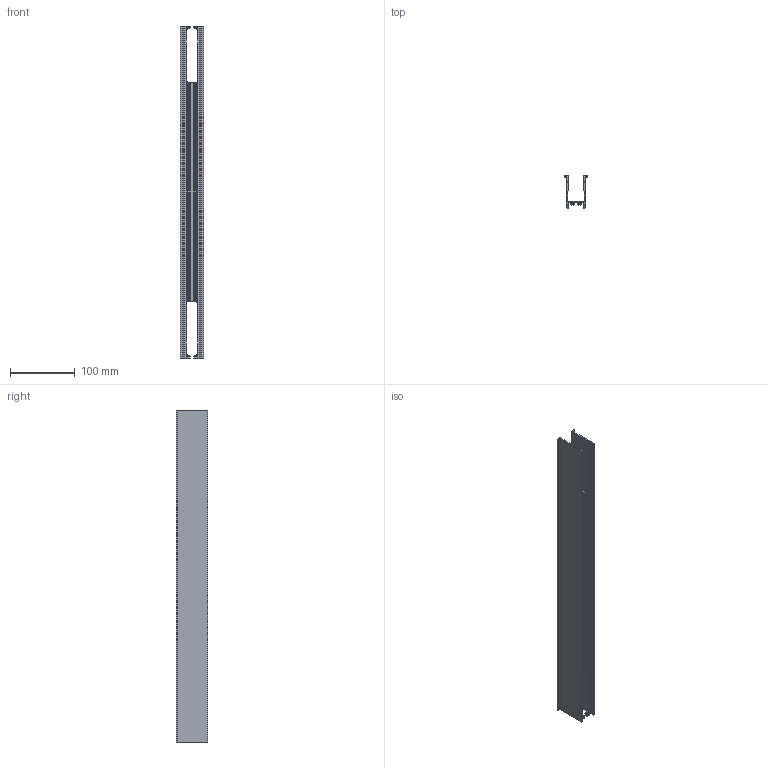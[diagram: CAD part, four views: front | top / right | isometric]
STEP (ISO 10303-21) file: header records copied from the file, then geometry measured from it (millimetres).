
FILE_DESCRIPTION(/* description */ ('Unknown'),/* implementation_level */ '2;1');
FILE_NAME(/* name */ '98355',/* time_stamp */ '2023-02-07T04:20:13-05:00',/* author */ ('Unknown'),/* organization */ ('Unknown'),/* preprocessor_version */ 'ST-DEVELOPER v18.1',/* originating_system */ 'Solid Edge',/* authorisation */ 'Unknown');
FILE_SCHEMA (('AUTOMOTIVE_DESIGN {1 0 10303 214 3 1 1}'));
Length unit declared in the file: millimetre
Products named in the file (1): 98355
Bounding box: 36 x 49 x 513 mm (x, y, z)
Volume: 117924.2 mm3; surface area: 139768.3 mm2
Topology: 1 solids, 1 shells, 156 faces, 466 edges, 312 vertices
Faces by surface type: cylinder 100, plane 56
Entity records: 5494 total; most frequent: CARTESIAN_POINT 1269, ORIENTED_EDGE 932, DIRECTION 848, EDGE_CURVE 466, VERTEX_POINT 312, AXIS2_PLACEMENT_3D 305, LINE 238, VECTOR 238
